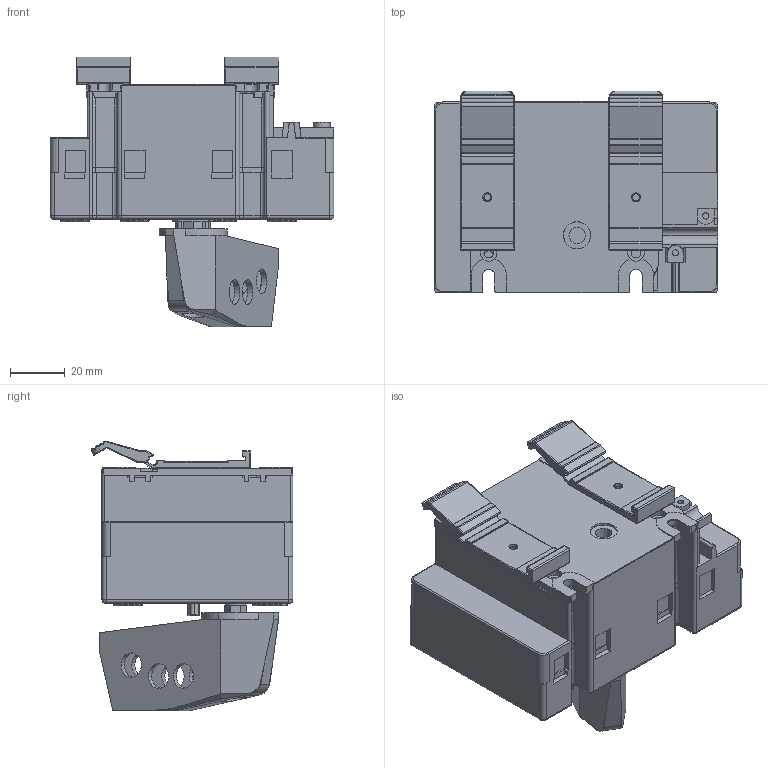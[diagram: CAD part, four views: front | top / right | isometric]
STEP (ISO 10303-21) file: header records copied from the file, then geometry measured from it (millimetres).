
FILE_DESCRIPTION (( 'STEP AP203' ), '1' );
FILE_NAME ('HGL-63.STEP', '2022-05-27T00:46:38', ( '' ), ( '' ), 'SwSTEP 2.0', 'SolidWorks 2019', '' );
FILE_SCHEMA (( 'CONFIG_CONTROL_DESIGN' ));
Products named in the file (1): HGL-63
Bounding box: 104 x 73.97 x 99 mm (x, y, z)
Volume: 301812.5 mm3; surface area: 70630.4 mm2
Topology: 1 solids, 37 shells, 2032 faces, 5354 edges, 3429 vertices
Faces by surface type: plane 1346, cylinder 437, torus 137, bspline 60, cone 44, sphere 8
Entity records: 67406 total; most frequent: CARTESIAN_POINT 17185, ORIENTED_EDGE 10688, DIRECTION 10102, EDGE_CURVE 5344, VECTOR 3836, LINE 3836, VERTEX_POINT 3429, AXIS2_PLACEMENT_3D 3133
